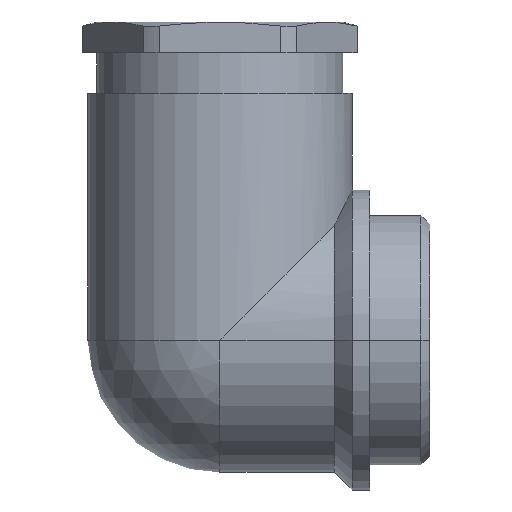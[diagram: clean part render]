
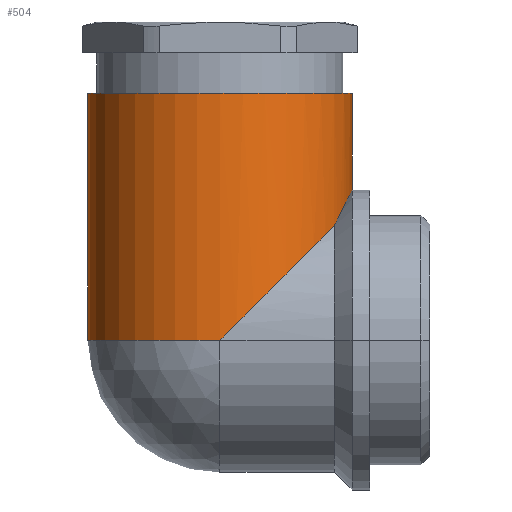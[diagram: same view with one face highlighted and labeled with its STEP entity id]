
A CAD part, front view. The second image highlights one B-rep face of the part: STEP entity #504.
In plain terms, the highlighted cylindrical face has radius 15 mm (diameter 30 mm), a partial arc.
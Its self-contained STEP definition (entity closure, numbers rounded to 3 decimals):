
#1 = VERTEX_POINT ( 'NONE', #819 ) ;
#6 = EDGE_CURVE ( 'NONE', #222, #9, #824, .T. ) ;
#9 = VERTEX_POINT ( 'NONE', #1004 ) ;
#59 = EDGE_CURVE ( 'NONE', #9, #1, #910, .T. ) ;
#173 = VERTEX_POINT ( 'NONE', #1292 ) ;
#174 = VERTEX_POINT ( 'NONE', #1255 ) ;
#177 = EDGE_CURVE ( 'NONE', #173, #222, #1186, .T. ) ;
#212 = EDGE_CURVE ( 'NONE', #220, #174, #1340, .T. ) ;
#220 = VERTEX_POINT ( 'NONE', #1341 ) ;
#222 = VERTEX_POINT ( 'NONE', #1377 ) ;
#349 = ORIENTED_EDGE ( 'NONE', *, *, #212, .T. ) ;
#362 = EDGE_CURVE ( 'NONE', #174, #1, #1602, .T. ) ;
#371 = ORIENTED_EDGE ( 'NONE', *, *, #177, .F. ) ;
#372 = ORIENTED_EDGE ( 'NONE', *, *, #482, .F. ) ;
#445 = EDGE_LOOP ( 'NONE', ( #371, #372, #349, #583, #584, #585 ) ) ;
#482 = EDGE_CURVE ( 'NONE', #220, #173, #1710, .T. ) ;
#504 = ADVANCED_FACE ( 'NONE', ( #1892 ), #1830, .T. ) ;
#583 = ORIENTED_EDGE ( 'NONE', *, *, #362, .T. ) ;
#584 = ORIENTED_EDGE ( 'NONE', *, *, #59, .F. ) ;
#585 = ORIENTED_EDGE ( 'NONE', *, *, #6, .F. ) ;
#766 = CARTESIAN_POINT ( 'NONE',  ( -9.087, -2.942, 16.456 ) ) ;
#767 = CARTESIAN_POINT ( 'NONE',  ( -9.02, -2.587, 16.583 ) ) ;
#768 = CARTESIAN_POINT ( 'NONE',  ( -8.912, -1.869, 16.788 ) ) ;
#769 = CARTESIAN_POINT ( 'NONE',  ( -8.871, -1.504, 16.866 ) ) ;
#770 = CARTESIAN_POINT ( 'NONE',  ( -8.815, -0.76, 16.973 ) ) ;
#771 = CARTESIAN_POINT ( 'NONE',  ( -8.8, -0.378, 17. ) ) ;
#772 = CARTESIAN_POINT ( 'NONE',  ( -8.8, 0., 17. ) ) ;
#819 = CARTESIAN_POINT ( 'NONE',  ( -23.8, -15., 0. ) ) ;
#824 = B_SPLINE_CURVE_WITH_KNOTS ( 'NONE', 3,
 ( #772, #771, #770, #769, #768, #767, #766, #898, #932, #962, #899, #1025, #936, #935, #920, #963 ),
 .UNSPECIFIED., .F., .F.,
 ( 4, 2, 2, 2, 2, 2, 2, 4 ),
 ( 0.01, 0.011, 0.012, 0.013, 0.014, 0.015, 0.016, 0.019 ),
 .UNSPECIFIED. ) ;
#898 = CARTESIAN_POINT ( 'NONE',  ( -9.24, -3.621, 16.164 ) ) ;
#899 = CARTESIAN_POINT ( 'NONE',  ( -9.613, -4.881, 15.438 ) ) ;
#909 = CARTESIAN_POINT ( 'NONE',  ( -10.8, -7.483, 13. ) ) ;
#910 =( BOUNDED_CURVE ( )  B_SPLINE_CURVE ( 3, ( #909, #1001, #1000, #999 ),
 .UNSPECIFIED., .F., .T. ) 
 B_SPLINE_CURVE_WITH_KNOTS ( ( 4, 4 ),
 ( 0.522, 1.571 ),
 .UNSPECIFIED. ) 
 CURVE ( )  GEOMETRIC_REPRESENTATION_ITEM ( )  RATIONAL_B_SPLINE_CURVE ( ( 1., 0.91, 0.91, 1. ) ) 
 REPRESENTATION_ITEM ( '' )  );
#920 = CARTESIAN_POINT ( 'NONE',  ( -10.544, -7.038, 13.552 ) ) ;
#932 = CARTESIAN_POINT ( 'NONE',  ( -9.325, -3.948, 15.999 ) ) ;
#935 = CARTESIAN_POINT ( 'NONE',  ( -10.294, -6.552, 14.07 ) ) ;
#936 = CARTESIAN_POINT ( 'NONE',  ( -9.942, -5.749, 14.783 ) ) ;
#962 = CARTESIAN_POINT ( 'NONE',  ( -9.512, -4.577, 15.636 ) ) ;
#963 = CARTESIAN_POINT ( 'NONE',  ( -10.8, -7.483, 13. ) ) ;
#999 = CARTESIAN_POINT ( 'NONE',  ( -23.8, -15., 0. ) ) ;
#1000 = CARTESIAN_POINT ( 'NONE',  ( -18.302, -15., 5.498 ) ) ;
#1001 = CARTESIAN_POINT ( 'NONE',  ( -13.543, -12.248, 10.257 ) ) ;
#1004 = CARTESIAN_POINT ( 'NONE',  ( -10.8, -7.483, 13. ) ) ;
#1025 = CARTESIAN_POINT ( 'NONE',  ( -9.828, -5.467, 15.011 ) ) ;
#1186 = LINE ( 'NONE', #1263, #1262 ) ;
#1255 = CARTESIAN_POINT ( 'NONE',  ( -38.8, 0., 0. ) ) ;
#1261 = DIRECTION ( 'NONE',  ( 0., 0., -1. ) ) ;
#1262 = VECTOR ( 'NONE', #1261, 1000. ) ;
#1263 = CARTESIAN_POINT ( 'NONE',  ( -8.8, 0., 28. ) ) ;
#1292 = CARTESIAN_POINT ( 'NONE',  ( -8.8, 0., 28. ) ) ;
#1327 = DIRECTION ( 'NONE',  ( 0., 0., -1. ) ) ;
#1338 = VECTOR ( 'NONE', #1327, 1000. ) ;
#1339 = CARTESIAN_POINT ( 'NONE',  ( -38.8, 0., 28. ) ) ;
#1340 = LINE ( 'NONE', #1339, #1338 ) ;
#1341 = CARTESIAN_POINT ( 'NONE',  ( -38.8, 0., 28. ) ) ;
#1377 = CARTESIAN_POINT ( 'NONE',  ( -8.8, 0., 17. ) ) ;
#1602 = CIRCLE ( 'NONE', #1738, 15. ) ;
#1654 = CARTESIAN_POINT ( 'NONE',  ( -23.8, 0., 0. ) ) ;
#1663 = DIRECTION ( 'NONE',  ( 1., 0., 0. ) ) ;
#1664 = DIRECTION ( 'NONE',  ( 0., 0., 1. ) ) ;
#1706 = DIRECTION ( 'NONE',  ( 1., 0., 0. ) ) ;
#1707 = DIRECTION ( 'NONE',  ( 0., 0., 1. ) ) ;
#1708 = CARTESIAN_POINT ( 'NONE',  ( -23.8, 0., 28. ) ) ;
#1709 = AXIS2_PLACEMENT_3D ( 'NONE', #1708, #1707, #1706 ) ;
#1710 = CIRCLE ( 'NONE', #1709, 15. ) ;
#1738 = AXIS2_PLACEMENT_3D ( 'NONE', #1654, #1664, #1663 ) ;
#1824 = DIRECTION ( 'NONE',  ( -1., 0., 0. ) ) ;
#1825 = DIRECTION ( 'NONE',  ( 0., 0., -1. ) ) ;
#1826 = CARTESIAN_POINT ( 'NONE',  ( -23.8, 0., 28. ) ) ;
#1827 = AXIS2_PLACEMENT_3D ( 'NONE', #1826, #1825, #1824 ) ;
#1830 = CYLINDRICAL_SURFACE ( 'NONE', #1827, 15. ) ;
#1892 = FACE_OUTER_BOUND ( 'NONE', #445, .T. ) ;
